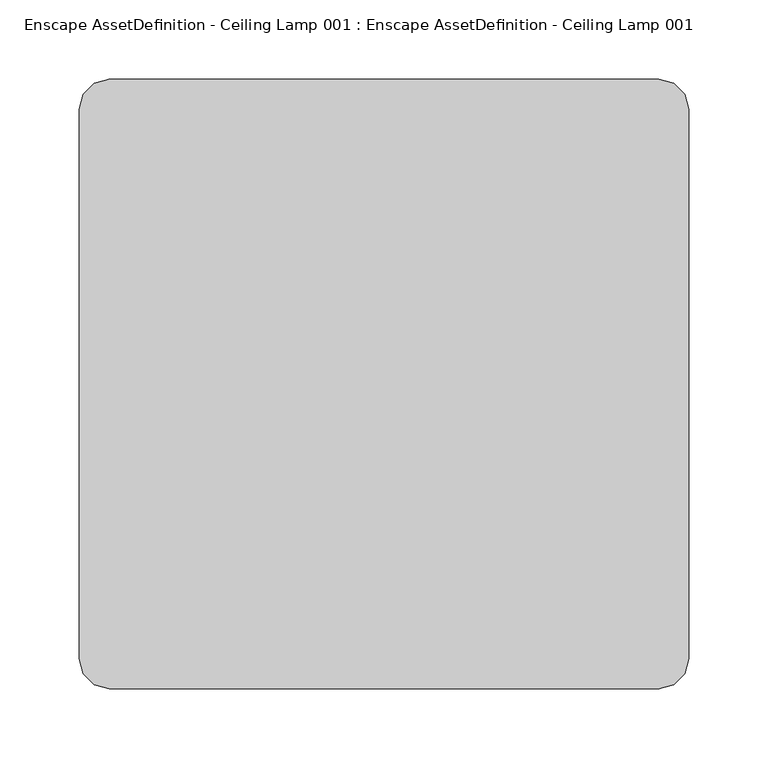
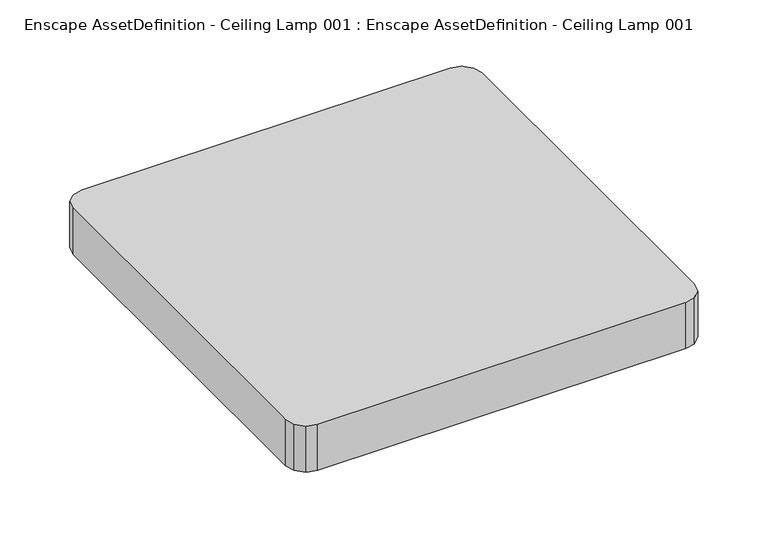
"""IFC4 building model written with IfcOpenShell, lengths in millimetres: geographic element geometry, Enscape AssetDefinition - Ceiling Lamp 001 : Enscape AssetDefinition - Ceiling Lamp 001."""

from ifc_helpers import new_model, si_unit, origin, place, context, project, spatial, triangles, source, transform, mapped, element, save


def enscape_assetdefinition_ceiling_lamp_001_enscape_6d65e554(model_context):
    return source(origin(), model_context, "Body", "Tessellation", [
        triangles([(173.4370698, 192.5580866, 0.0), (173.4370698, 192.5580866, -45.9999902), (182.9975873, 189.9959973, 0.0), (-173.4370698, 192.5580866, -45.9999902), (-189.9959973, 182.9975873, -45.9999902), (-182.9975873, 189.9959973, -45.9999902), (-182.9975873, 189.9959973, 0.0), (-189.9959973, 182.9975873, 0.0), (-192.5580866, 173.4370698, -45.9999902), (-192.5580866, 173.4370698, 0.0), (-173.4370698, 192.5580866, 0.0), (-192.5580866, -173.4370698, -45.9999902), (-189.9959973, -182.9975873, -45.9999902), (-189.9959973, -182.9975873, 0.0), (173.4370698, -192.5580866, 0.0), (-192.5580866, -173.4370698, 0.0), (-173.4370698, -192.5580866, -45.9999902), (-182.9975873, -189.9959973, -45.9999902), (-182.9975873, -189.9959973, 0.0), (-173.4370698, -192.5580866, 0.0), (173.4370698, -192.5580866, -45.9999902), (192.5580866, -173.4370698, -45.9999902), (182.9975873, -189.9959973, -45.9999902), (189.9959973, -182.9975873, -45.9999902), (182.9975873, -189.9959973, 0.0), (189.9959973, -182.9975873, 0.0), (192.5580866, -173.4370698, 0.0), (192.5580866, 173.4370698, 0.0), (192.5580866, 173.4370698, -45.9999902), (189.9959973, 182.9975873, 0.0), (189.9959973, 182.9975873, -45.9999902), (182.9975873, 189.9959973, -45.9999902)], [[17, 9, 22], [30, 32, 3], [32, 2, 3], [2, 22, 9], [31, 32, 30], [32, 31, 2], [28, 11, 15], [30, 3, 28], [28, 31, 30], [29, 31, 28], [31, 29, 2], [29, 22, 2], [28, 27, 29], [27, 28, 15], [29, 27, 22], [26, 27, 15], [26, 22, 27], [24, 22, 26], [25, 26, 15], [25, 24, 26], [23, 24, 25], [24, 23, 22], [15, 23, 25], [21, 23, 15], [23, 21, 22], [21, 17, 22], [15, 20, 21], [21, 20, 17], [18, 17, 19], [19, 17, 20], [19, 20, 16], [20, 15, 16], [16, 15, 11], [14, 19, 16], [14, 18, 19], [13, 18, 14], [18, 13, 17], [16, 13, 14], [12, 13, 16], [13, 12, 17], [12, 9, 17], [16, 10, 12], [10, 16, 11], [12, 10, 9], [10, 8, 9], [8, 10, 11], [9, 8, 5], [8, 7, 5], [7, 8, 11], [7, 11, 6], [5, 6, 9], [5, 7, 6], [6, 4, 9], [4, 2, 9], [6, 11, 4], [3, 1, 28], [1, 11, 28], [11, 1, 4], [3, 2, 1], [4, 1, 2]]),
    ])


if __name__ == "__main__":
    model = new_model("IFC4")
    model_context = context("Model", 3, world=origin())
    ifc_project = project(units=[si_unit("LENGTHUNIT", "METRE", prefix="MILLI")], contexts=[model_context])
    site = spatial("IfcSite", under=ifc_project)
    building = spatial("IfcBuilding", under=site)
    placement = place(None, origin())
    enscape_assetdefinition_ceiling_lamp_001_enscape_shape = enscape_assetdefinition_ceiling_lamp_001_enscape_6d65e554(model_context)
    element("IfcGeographicElement", 1, ObjectType="Enscape AssetDefinition - Ceiling Lamp 001 : Enscape AssetDefinition - Ceiling Lamp 001", at=placement, inside=building, context=model_context, shape_type="MappedRepresentation", body=[
        mapped(enscape_assetdefinition_ceiling_lamp_001_enscape_shape, transform((0.0, 0.0, 0.0), x_axis=(1.0, 0.0, 0.0), y_axis=(0.0, 1.0, 0.0), z_axis=(0.0, 0.0, 1.0))),
    ])
    save(model, "model.ifc")
